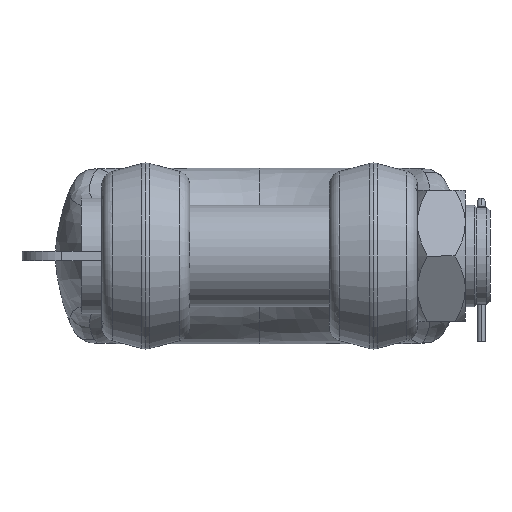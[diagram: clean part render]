
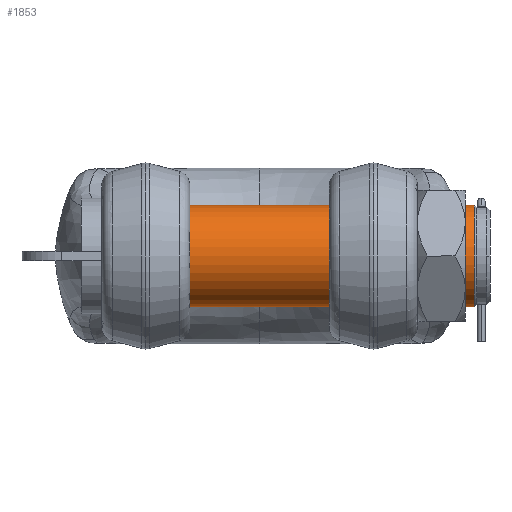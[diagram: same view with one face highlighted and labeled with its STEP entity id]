
A CAD part, front view. The second image highlights one B-rep face of the part: STEP entity #1853.
In plain terms, the highlighted cylindrical face has radius 127.5 mm (diameter 255 mm), a partial arc.
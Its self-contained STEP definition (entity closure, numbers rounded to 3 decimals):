
#1853=ADVANCED_FACE('',(#3716),#3717,.T.);
#3716=FACE_OUTER_BOUND('',#76796,.T.);
#3717=CYLINDRICAL_SURFACE('',#76797,127.5);
#76796=EDGE_LOOP('',(#81519,#81520,#81521,#81522));
#76797=AXIS2_PLACEMENT_3D('',#81523,#81524,#81525);
#81519=ORIENTED_EDGE('',*,*,#83675,.T.);
#81520=ORIENTED_EDGE('',*,*,#83686,.T.);
#81521=ORIENTED_EDGE('',*,*,#83677,.T.);
#81522=ORIENTED_EDGE('',*,*,#83683,.T.);
#81523=CARTESIAN_POINT('',(-395.0,0.,0.0));
#81524=DIRECTION('',(-1.0,0.0,0.0));
#81525=DIRECTION('',(0.0,0.0,-1.0));
#83675=EDGE_CURVE('',#86732,#86728,#86733,.T.);
#83677=EDGE_CURVE('',#86726,#86734,#86736,.T.);
#83683=EDGE_CURVE('',#86734,#86732,#86744,.T.);
#83686=EDGE_CURVE('',#86728,#86726,#86747,.T.);
#86726=VERTEX_POINT('',#138697);
#86728=VERTEX_POINT('',#138700);
#86732=VERTEX_POINT('',#138705);
#86733=LINE('',#138706,#138707);
#86734=VERTEX_POINT('',#138708);
#86736=LINE('',#138710,#138711);
#86744=CIRCLE('',#138719,127.5);
#86747=CIRCLE('',#138722,127.5);
#138697=CARTESIAN_POINT('',(538.0,0.,127.5));
#138700=CARTESIAN_POINT('',(538.0,0.,-127.5));
#138705=CARTESIAN_POINT('',(-391.0,0.,-127.5));
#138706=CARTESIAN_POINT('',(73.5,0.,-127.5));
#138707=VECTOR('',#140445,1.0);
#138708=CARTESIAN_POINT('',(-391.0,0.,127.5));
#138710=CARTESIAN_POINT('',(73.5,0.,127.5));
#138711=VECTOR('',#140449,1.0);
#138719=AXIS2_PLACEMENT_3D('',#140459,#140460,#140461);
#138722=AXIS2_PLACEMENT_3D('',#140465,#140466,#140467);
#140445=DIRECTION('',(1.0,-0.0,-0.0));
#140449=DIRECTION('',(-1.0,0.0,0.0));
#140459=CARTESIAN_POINT('',(-391.0,0.,0.0));
#140460=DIRECTION('',(1.0,0.0,0.0));
#140461=DIRECTION('',(0.0,0.0,-1.0));
#140465=CARTESIAN_POINT('',(538.0,0.,0.0));
#140466=DIRECTION('',(-1.0,0.0,0.0));
#140467=DIRECTION('',(0.0,0.0,-1.0));
